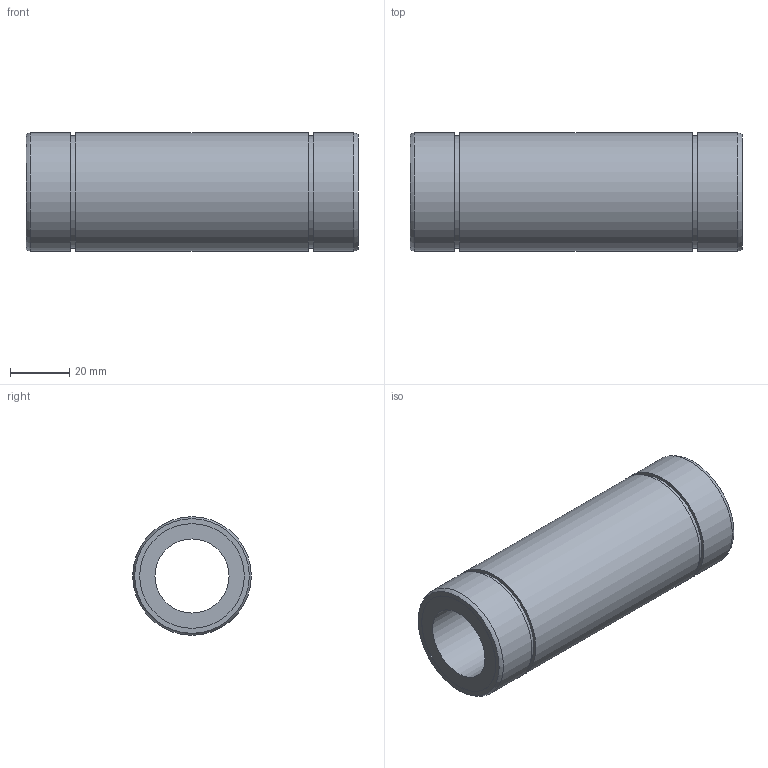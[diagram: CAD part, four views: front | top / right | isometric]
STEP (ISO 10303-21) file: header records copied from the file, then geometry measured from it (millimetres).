
FILE_DESCRIPTION((''),'2;1');
FILE_NAME('D:\製品 (図面)\カタログ用3D\リニアベアリング関連\STEP形式\LD\LD25.stp','2010-06-02T17:41:20',('Tsuchiya'),(''),'Autodesk Inventor 10','Autodesk Inventor 10','');
FILE_SCHEMA(('AUTOMOTIVE_DESIGN { 1 0 10303 214 1 1 1 1 }'));
Length unit declared in the file: millimetre
Products named in the file (1): LD25
Bounding box: 112 x 40 x 40 mm (x, y, z)
Volume: 85115.9 mm3; surface area: 24744.4 mm2
Topology: 1 solids, 1 shells, 18 faces, 28 edges, 18 vertices
Faces by surface type: plane 8, cylinder 8, torus 2
Full cylindrical faces by diameter (mm): 25 x1, 35.3 x2, 38 x2, 40 x3
Entity records: 391 total; most frequent: DIRECTION 74, CARTESIAN_POINT 55, AXIS2_PLACEMENT_3D 37, ORIENTED_EDGE 36, EDGE_LOOP 36, VERTEX_POINT 18, CIRCLE 18, EDGE_CURVE 18
